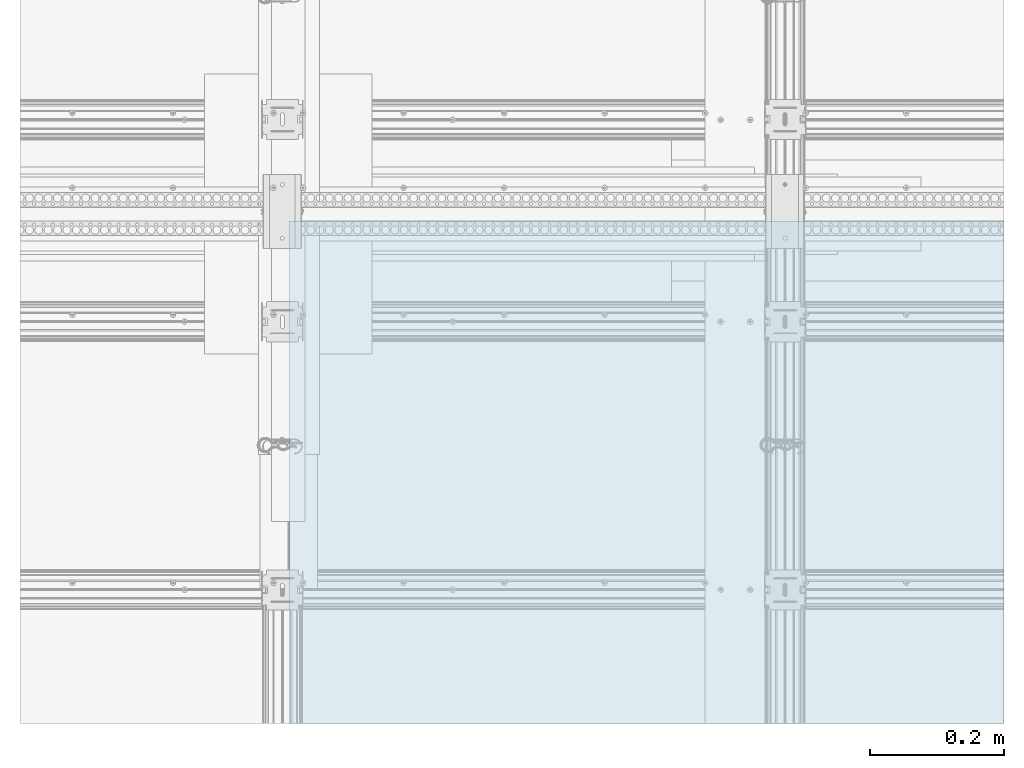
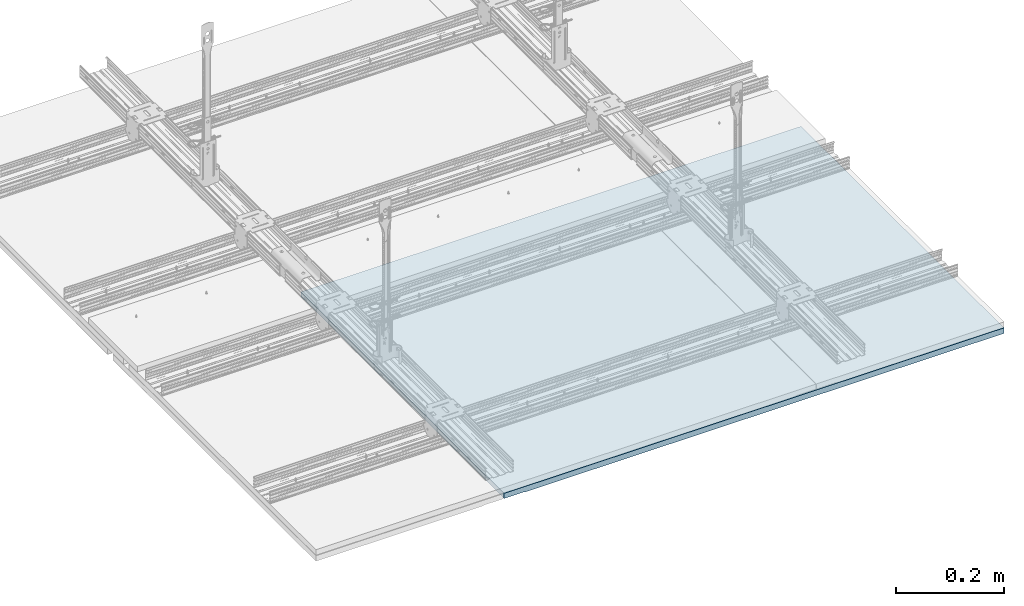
# One storey, part 3 of 73: 1 slab.
"""IFC2X3 building model written with IfcOpenShell, lengths in millimetres."""

from ifc_helpers import new_model, entity, si_unit, converted_unit, direction, frame, origin, origin_with_axes, place, context, project, spatial, faceted_brep, element, save


model = new_model("IFC2X3")

# Units and contexts
model_context = context("Model", 3, precision=1e-05, world=origin(), true_north=direction((0.0, 1.0, 0.0)))
ifc_project = project(units=[si_unit("LENGTHUNIT", "METRE", prefix="MILLI"), si_unit("AREAUNIT", "SQUARE_METRE"), si_unit("VOLUMEUNIT", "CUBIC_METRE"), converted_unit("PLANEANGLEUNIT", "DEGREE", entity("IfcPlaneAngleMeasure", 0.01745), si_unit("PLANEANGLEUNIT", "RADIAN"), dimensions=[0, 0, 0, 0, 0, 0, 0]), si_unit("SOLIDANGLEUNIT", "STERADIAN"), si_unit("MASSUNIT", "GRAM"), si_unit("TIMEUNIT", "SECOND"), si_unit("THERMODYNAMICTEMPERATUREUNIT", "DEGREE_CELSIUS"), si_unit("LUMINOUSINTENSITYUNIT", "LUMEN")], contexts=[model_context])

# Site, building, storey
site_placement = place(None, origin_with_axes())
site = spatial("IfcSite", under=ifc_project, at=site_placement, Name="Default Site", CompositionType="ELEMENT")
building_placement = place(site_placement, origin_with_axes())
building = spatial("IfcBuilding", under=site, at=building_placement, Name="Default Building", CompositionType="ELEMENT")
storey_placement = place(building_placement, origin_with_axes())
storey = spatial("IfcBuildingStorey", under=building, at=storey_placement, Name="Default Building Storey", CompositionType="ELEMENT", Elevation=0.0)

# Slab
slab_placement = place(storey_placement, frame((2526.439347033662, 400.208879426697, 980.2852175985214), z_axis=(-3.36311631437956e-44, -1.0, 3.330669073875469e-16), x_axis=(1.0, -2.12807555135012e-28, -6.389333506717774e-13)))
element("IfcSlab", 1, at=slab_placement, inside=storey, Name="Płyta gipsowo-kartonowa RIGIPS PRO (4PRO™)", context=model_context, shape_type="Brep", body=[
    faceted_brep([(1066.601271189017, 7.47539274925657e-10, -418.1320433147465), (1066.601271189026, -12.49999999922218, -418.1320433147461), (44.99999999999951, -12.50000000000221, -418.1320433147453), (41.00000000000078, -11.5000000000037, -418.1320433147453), (0.9999999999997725, -11.5000000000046, -418.1320433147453), (0.741180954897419, -11.46592582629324, -418.1320433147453), (0.4999999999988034, -11.3660254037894, -418.1320433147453), (0.2928932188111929, -11.20710678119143, -418.1320433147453), (0.1339745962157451, -11.00000000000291, -418.1320433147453), (0.03407417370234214, -10.75881904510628, -418.1320433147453), (-4.33146851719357e-12, -10.50000000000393, -418.1320433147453), (1.082867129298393e-12, -5.414335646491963e-13, -418.1320433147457), (1066.60127118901, -12.49999999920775, -1167.762426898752), (44.99999999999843, -12.49999999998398, -1167.762426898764), (1066.601271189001, 7.645041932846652e-10, -1167.762426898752), (40.9999999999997, -11.49999999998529, -1167.762426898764), (0.9999999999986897, -11.49999999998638, -1167.762426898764), (0.7411809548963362, -11.46592582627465, -1167.762426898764), (0.4999999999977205, -11.36602540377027, -1167.762426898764), (0.29289321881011, -11.20710678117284, -1167.762426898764), (0.1339745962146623, -10.99999999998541, -1167.762426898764), (0.03407417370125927, -10.75881904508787, -1167.762426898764), (-5.414335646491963e-12, -10.49999999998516, -1167.762426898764), (0.0, 1.822826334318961e-11, -1167.762426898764)], [[[0, 1, 2, 3, 4, 5, 6, 7, 8, 9, 10, 11]], [[1, 12, 13, 2]], [[0, 14, 12, 1]], [[2, 13, 15, 3]], [[3, 15, 16, 4]], [[4, 16, 17, 5]], [[5, 17, 18, 6]], [[6, 18, 19, 7]], [[7, 19, 20, 8]], [[8, 20, 21, 9]], [[9, 21, 22, 10]], [[10, 22, 23, 11]], [[0, 11, 23, 14]], [[13, 12, 14, 23, 22, 21, 20, 19, 18, 17, 16, 15]]]),
])

save(model, "model.ifc")
